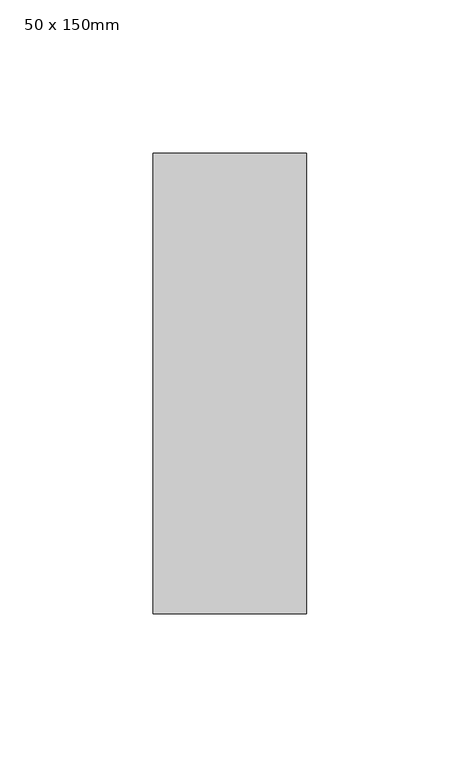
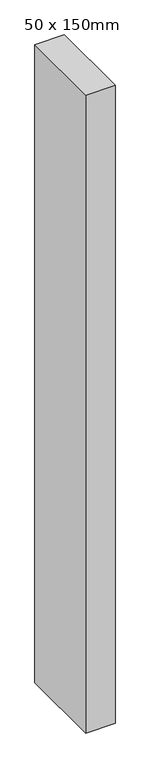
"""IFC4 building model written with IfcOpenShell, lengths in millimetres: member geometry, 矩形豎框 : 50 x 150mm."""

from ifc_helpers import new_model, si_unit, frame, origin, place, context, project, spatial, polyline, outline, extrude, source, transform, mapped, element, save


def member_50_x_150mm_050e1f32(model_context):
    return source(origin(), model_context, "Body", "SweptSolid", [
        extrude(outline(polyline([(0.0, 75.0), (0.0, -75.0), (-50.0, -75.0), (-50.0, 75.0), (0.0, 75.0)])), frame((0.0, 0.0, -1149.8779336), z_axis=(0.0, 0.0, 1.0), x_axis=(1.0, 0.0, 0.0)), (0.0, 0.0, 1.0), 1149.8779336),
    ])


if __name__ == "__main__":
    model = new_model("IFC4")
    model_context = context("Model", 3, world=origin())
    ifc_project = project(units=[si_unit("LENGTHUNIT", "METRE", prefix="MILLI")], contexts=[model_context])
    site = spatial("IfcSite", under=ifc_project)
    building = spatial("IfcBuilding", under=site)
    placement = place(None, origin())
    member_50_x_150mm_shape = member_50_x_150mm_050e1f32(model_context)
    element("IfcMember", 1, ObjectType="矩形豎框 : 50 x 150mm", at=placement, inside=building, context=model_context, shape_type="MappedRepresentation", body=[
        mapped(member_50_x_150mm_shape, transform((0.0, 0.0, 0.0), x_axis=(1.0, 0.0, 0.0), y_axis=(0.0, 1.0, 0.0), z_axis=(0.0, 0.0, 1.0))),
    ])
    save(model, "model.ifc")
